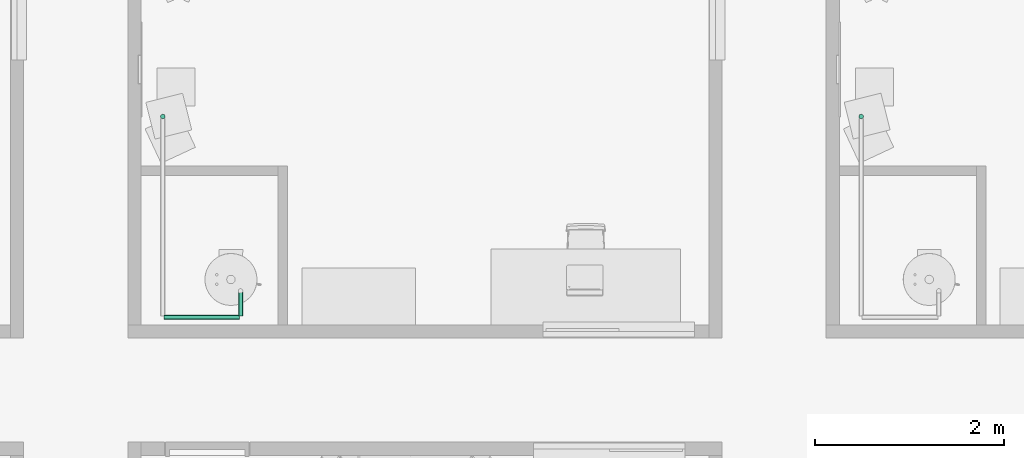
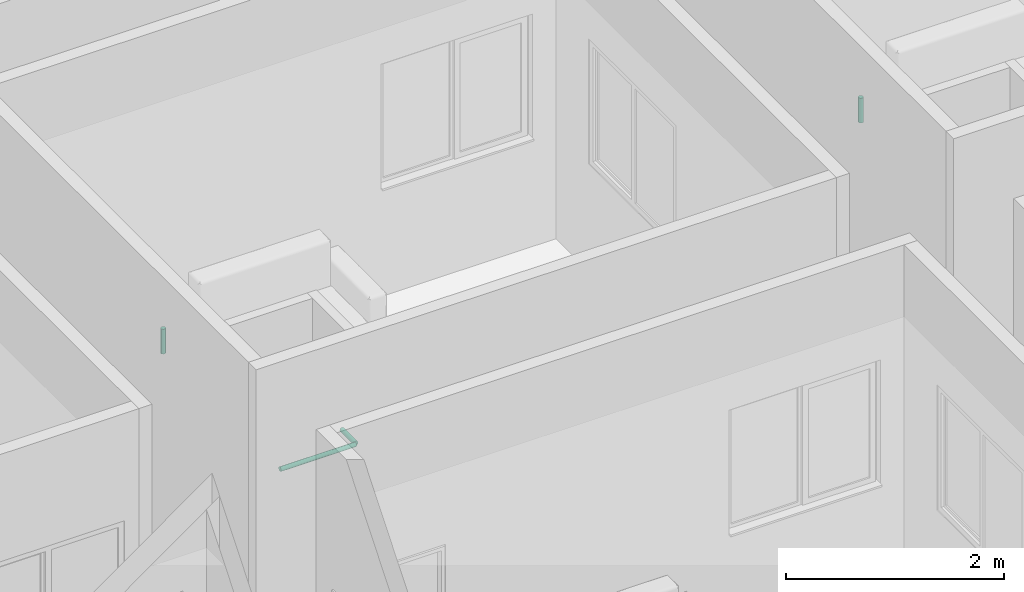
# One storey, part 48 of 71: 4 pipe segments.
"""IFC4 building model written with IfcOpenShell, lengths in centimetres."""

from ifc_helpers import new_model, entity, si_unit, converted_unit, derived_unit, direction, frame, origin, place, context, subcontext, project, spatial, arc, indexed_curve, outline, extrude, type_object, element, save


model = new_model("IFC4")

# Units and contexts
model_context = context("Model", 3, precision=0.001, world=origin(), true_north=direction((6.123233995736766e-17, 1.0)))
body_context = subcontext(model_context, "Body", "Model", "MODEL_VIEW")
ifc_project = project(units=[si_unit("LENGTHUNIT", "METRE", prefix="CENTI"), si_unit("AREAUNIT", "SQUARE_METRE"), si_unit("VOLUMEUNIT", "CUBIC_METRE"), derived_unit("THERMALTRANSMITTANCEUNIT", [(si_unit("MASSUNIT", "GRAM", prefix="KILO"), 1), (si_unit("THERMODYNAMICTEMPERATUREUNIT", "KELVIN"), -1), (si_unit("TIMEUNIT", "SECOND"), -3)]), converted_unit("PLANEANGLEUNIT", "DEGREE", entity("IfcPlaneAngleMeasure", 0.017453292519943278), si_unit("PLANEANGLEUNIT", "RADIAN"), dimensions=[0, 0, 0, 0, 0, 0, 0]), derived_unit("MASSDENSITYUNIT", [(si_unit("MASSUNIT", "GRAM", prefix="KILO"), 1), (si_unit("LENGTHUNIT", "METRE"), -3)]), derived_unit("VAPORPERMEABILITYUNIT", [(si_unit("LENGTHUNIT", "METRE"), -1), (si_unit("TIMEUNIT", "SECOND"), 1)]), derived_unit("USERDEFINED", [(si_unit("MASSUNIT", "GRAM", prefix="KILO"), 1), (si_unit("TIMEUNIT", "SECOND"), -3), (si_unit("LENGTHUNIT", "METRE"), 3), (si_unit("ELECTRICCURRENTUNIT", "AMPERE"), -2)]), derived_unit("SPECIFICHEATCAPACITYUNIT", [(si_unit("THERMODYNAMICTEMPERATUREUNIT", "KELVIN"), -1), (si_unit("LENGTHUNIT", "METRE"), 2), (si_unit("TIMEUNIT", "SECOND"), -2)]), derived_unit("THERMALCONDUCTANCEUNIT", [(si_unit("MASSUNIT", "GRAM", prefix="KILO"), 1), (si_unit("THERMODYNAMICTEMPERATUREUNIT", "KELVIN"), -1), (si_unit("TIMEUNIT", "SECOND"), -3), (si_unit("LENGTHUNIT", "METRE"), 1)]), si_unit("PRESSUREUNIT", "PASCAL"), derived_unit("MODULUSOFELASTICITYUNIT", [(si_unit("MASSUNIT", "GRAM", prefix="KILO"), 1), (si_unit("LENGTHUNIT", "METRE"), -1), (si_unit("TIMEUNIT", "SECOND"), -2)]), derived_unit("THERMALEXPANSIONCOEFFICIENTUNIT", [(si_unit("THERMODYNAMICTEMPERATUREUNIT", "KELVIN"), -1)])], contexts=[model_context])

# Site, building, storey
site_placement = place(None, origin())
site = spatial("IfcSite", under=ifc_project, at=site_placement, Name="Default", CompositionType="ELEMENT")
building_placement = place(site_placement, origin())
building = spatial("IfcBuilding", under=site, at=building_placement, Name="IDS Escape Game Building", CompositionType="ELEMENT")
storey_placement = place(building_placement, frame((0.0, 0.0, 1200.0)))
storey = spatial("IfcBuildingStorey", under=building, at=storey_placement, Name="03_Third Floor", CompositionType="ELEMENT", Elevation=1200.0)

# Pipe segments
pipe_segment_type = type_object("IfcPipeSegmentType", Name="Pipe Types:Piping Aluminum", PredefinedType="NOTDEFINED")
pipe_segment_1_placement = place(storey_placement, origin())
element("IfcPipeSegment", 1, at=pipe_segment_1_placement, inside=storey, type_object=pipe_segment_type, Name="Pipe Types:Piping Aluminum", ObjectType="Pipe Types:Piping Aluminum", PredefinedType="NOTDEFINED", context=body_context, shape_type="SweptSolid", body=[
    extrude(outline(indexed_curve([(2.412999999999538, -2.165734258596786e-13), (1.7062486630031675, 1.7062486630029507), (4.331468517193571e-13, 2.4130000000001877), (-1.7062486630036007, 1.7062486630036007), (-2.4130000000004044, -2.165734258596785e-13), (-1.7062486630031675, -1.706248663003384), (4.3314685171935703e-13, -2.4129999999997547), (1.7062486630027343, -1.7062486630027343)], segments=[arc(1, 2, 3), arc(3, 4, 5), arc(5, 6, 7), arc(7, 8, 1)], self_intersect=False)), frame((1507.1467168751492, 2573.2648279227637, 242.0), z_axis=(1.0, 0.0, 0.0), x_axis=(0.0, 1.0, 0.0)), (0.0, 0.0, 1.0), 79.90328312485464),
])
pipe_segment_2_placement = place(storey_placement, origin())
element("IfcPipeSegment", 2, at=pipe_segment_2_placement, inside=storey, type_object=pipe_segment_type, Name="Pipe Types:Piping Aluminum", ObjectType="Pipe Types:Piping Aluminum", PredefinedType="NOTDEFINED", context=body_context, shape_type="SweptSolid", body=[
    extrude(outline(indexed_curve([(2.4129999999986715, 0.0), (1.7062486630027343, 1.706248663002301), (1.2994405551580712e-12, 2.412999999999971), (-1.7062486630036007, 1.7062486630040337), (-2.413000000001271, 0.0), (-1.7062486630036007, -1.7062486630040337), (1.2994405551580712e-12, -2.412999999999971), (1.7062486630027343, -1.706248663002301)], segments=[arc(1, 2, 3), arc(3, 4, 5), arc(5, 6, 7), arc(7, 8, 1)], self_intersect=False)), frame((1588.1500000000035, 2574.3648279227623, 242.0), z_axis=(0.0, 1.0, 0.0), x_axis=(-1.0, 0.0, 0.0)), (0.0, 0.0, 1.0), 25.43517207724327),
])
pipe_segment_3_placement = place(storey_placement, origin())
element("IfcPipeSegment", 3, at=pipe_segment_3_placement, inside=storey, type_object=pipe_segment_type, Name="Pipe Types:Piping Aluminum", ObjectType="Pipe Types:Piping Aluminum", PredefinedType="NOTDEFINED", context=body_context, shape_type="SweptSolid", body=[
    extrude(outline(indexed_curve([(2.412999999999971, 4.331468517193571e-13), (1.7062486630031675, 1.7062486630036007), (0.0, 2.4130000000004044), (-1.7062486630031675, 1.7062486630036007), (-2.412999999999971, 4.331468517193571e-13), (-1.7062486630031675, -1.7062486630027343), (0.0, -2.412999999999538), (1.7062486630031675, -1.7062486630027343)], segments=[arc(1, 2, 3), arc(3, 4, 5), arc(5, 6, 7), arc(7, 8, 1)], self_intersect=False)), frame((1506.0467168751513, 2785.264827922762, 244.09999999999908), z_axis=(0.0, 0.0, 1.0), x_axis=(-1.0, 0.0, 0.0)), (0.0, 0.0, 1.0), 27.90000000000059),
])
pipe_segment_4_placement = place(storey_placement, origin())
element("IfcPipeSegment", 4, at=pipe_segment_4_placement, inside=storey, type_object=pipe_segment_type, Name="Pipe Types:Piping Aluminum", ObjectType="Pipe Types:Piping Aluminum", PredefinedType="NOTDEFINED", context=body_context, shape_type="SweptSolid", body=[
    extrude(outline(indexed_curve([(2.412999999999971, 4.331468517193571e-13), (1.7062486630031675, 1.7062486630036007), (0.0, 2.4130000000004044), (-1.7062486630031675, 1.7062486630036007), (-2.412999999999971, 4.331468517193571e-13), (-1.7062486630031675, -1.7062486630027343), (0.0, -2.412999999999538), (1.7062486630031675, -1.7062486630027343)], segments=[arc(1, 2, 3), arc(3, 4, 5), arc(5, 6, 7), arc(7, 8, 1)], self_intersect=False)), frame((2244.046716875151, 2785.264827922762, 244.09999999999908), z_axis=(0.0, 0.0, 1.0), x_axis=(-1.0, 0.0, 0.0)), (0.0, 0.0, 1.0), 27.90000000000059),
])

save(model, "model.ifc")
